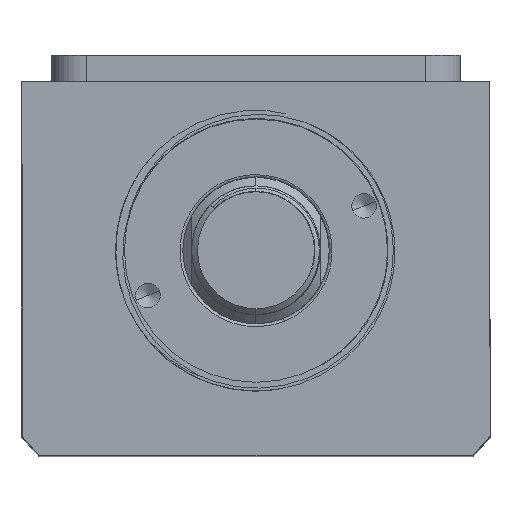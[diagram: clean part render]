
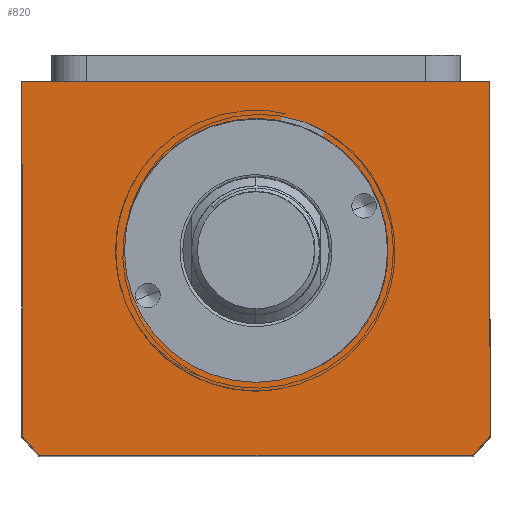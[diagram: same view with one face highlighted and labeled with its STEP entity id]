
A CAD part, top view. The second image highlights one B-rep face of the part: STEP entity #820.
In plain terms, the highlighted planar face has unit normal (0, 0, 1).
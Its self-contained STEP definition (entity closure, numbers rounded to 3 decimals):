
#12 = DIRECTION ( 'NONE',  ( 1., 0., 0. ) ) ;
#111 = CARTESIAN_POINT ( 'NONE',  ( -40., -11.507, 150. ) ) ;
#234 = ORIENTED_EDGE ( 'NONE', *, *, #9653, .T. ) ;
#556 = VERTEX_POINT ( 'NONE', #13759 ) ;
#820 = ADVANCED_FACE ( 'NONE', ( #2173, #1722 ), #9846, .T. ) ;
#1165 = DIRECTION ( 'NONE',  ( 1., 0., 0. ) ) ;
#1722 = FACE_OUTER_BOUND ( 'NONE', #16834, .T. ) ;
#1751 = VERTEX_POINT ( 'NONE', #5623 ) ;
#1778 = CARTESIAN_POINT ( 'NONE',  ( -22.5, -40.507, 150. ) ) ;
#1785 = ORIENTED_EDGE ( 'NONE', *, *, #12431, .T. ) ;
#1990 = DIRECTION ( 'NONE',  ( 0., 0., 1. ) ) ;
#2117 = CIRCLE ( 'NONE', #4791, 22.5 ) ;
#2173 = FACE_BOUND ( 'NONE', #12995, .T. ) ;
#2373 = VERTEX_POINT ( 'NONE', #8440 ) ;
#2476 = EDGE_CURVE ( 'NONE', #10465, #1751, #14210, .T. ) ;
#2499 = LINE ( 'NONE', #14016, #9252 ) ;
#2583 = ORIENTED_EDGE ( 'NONE', *, *, #6225, .T. ) ;
#3766 = CARTESIAN_POINT ( 'NONE',  ( 0., -40.507, 150. ) ) ;
#3883 = CARTESIAN_POINT ( 'NONE',  ( 37.094, -75.507, 150. ) ) ;
#4791 = AXIS2_PLACEMENT_3D ( 'NONE', #16241, #8116, #12 ) ;
#5122 = DIRECTION ( 'NONE',  ( 1., 0., 0. ) ) ;
#5579 = ORIENTED_EDGE ( 'NONE', *, *, #14015, .F. ) ;
#5623 = CARTESIAN_POINT ( 'NONE',  ( -40., -72.145, 150. ) ) ;
#5966 = DIRECTION ( 'NONE',  ( 0., -1., 0. ) ) ;
#6169 = DIRECTION ( 'NONE',  ( 1., 0., 0. ) ) ;
#6225 = EDGE_CURVE ( 'NONE', #556, #10465, #15949, .T. ) ;
#6986 = VECTOR ( 'NONE', #5966, 1000. ) ;
#7435 = CARTESIAN_POINT ( 'NONE',  ( 0., -40.507, 150. ) ) ;
#7472 = CARTESIAN_POINT ( 'NONE',  ( -37.094, -75.507, 150. ) ) ;
#7816 = AXIS2_PLACEMENT_3D ( 'NONE', #7435, #16922, #8801 ) ;
#8116 = DIRECTION ( 'NONE',  ( 0., 0., 1. ) ) ;
#8256 = AXIS2_PLACEMENT_3D ( 'NONE', #3766, #13229, #5122 ) ;
#8280 = CARTESIAN_POINT ( 'NONE',  ( 22.5, -40.507, 150. ) ) ;
#8440 = CARTESIAN_POINT ( 'NONE',  ( 40., -72.145, 150. ) ) ;
#8614 = LINE ( 'NONE', #9571, #14970 ) ;
#8664 = AXIS2_PLACEMENT_3D ( 'NONE', #17402, #9258, #1165 ) ;
#8739 = VECTOR ( 'NONE', #13016, 1000. ) ;
#8801 = DIRECTION ( 'NONE',  ( 1., 0., 0. ) ) ;
#9252 = VECTOR ( 'NONE', #10014, 1000. ) ;
#9258 = DIRECTION ( 'NONE',  ( 0., 0., 1. ) ) ;
#9571 = CARTESIAN_POINT ( 'NONE',  ( -40., -75.507, 150. ) ) ;
#9653 = EDGE_CURVE ( 'NONE', #2373, #556, #2499, .T. ) ;
#9846 = PLANE ( 'NONE',  #13245 ) ;
#9938 = EDGE_CURVE ( 'NONE', #9959, #2373, #17543, .T. ) ;
#9959 = VERTEX_POINT ( 'NONE', #3883 ) ;
#10014 = DIRECTION ( 'NONE',  ( 0., 1., 0. ) ) ;
#10465 = VERTEX_POINT ( 'NONE', #111 ) ;
#10672 = VERTEX_POINT ( 'NONE', #1778 ) ;
#12068 = CARTESIAN_POINT ( 'NONE',  ( 0., 0., 150. ) ) ;
#12431 = EDGE_CURVE ( 'NONE', #1751, #13072, #13657, .T. ) ;
#12577 = DIRECTION ( 'NONE',  ( 1., 0., 0. ) ) ;
#12961 = CARTESIAN_POINT ( 'NONE',  ( -40., -11.507, 150. ) ) ;
#12995 = EDGE_LOOP ( 'NONE', ( #5579, #17265 ) ) ;
#13016 = DIRECTION ( 'NONE',  ( -1., 0., 0. ) ) ;
#13072 = VERTEX_POINT ( 'NONE', #7472 ) ;
#13229 = DIRECTION ( 'NONE',  ( 0., 0., 1. ) ) ;
#13245 = AXIS2_PLACEMENT_3D ( 'NONE', #12068, #1990, #6169 ) ;
#13657 = CIRCLE ( 'NONE', #8256, 51. ) ;
#13759 = CARTESIAN_POINT ( 'NONE',  ( 40., -11.507, 150. ) ) ;
#14015 = EDGE_CURVE ( 'NONE', #16633, #10672, #17378, .T. ) ;
#14016 = CARTESIAN_POINT ( 'NONE',  ( 40., -11.507, 150. ) ) ;
#14077 = CARTESIAN_POINT ( 'NONE',  ( -40., -11.507, 150. ) ) ;
#14210 = LINE ( 'NONE', #14077, #6986 ) ;
#14271 = EDGE_CURVE ( 'NONE', #10672, #16633, #2117, .T. ) ;
#14284 = ORIENTED_EDGE ( 'NONE', *, *, #9938, .T. ) ;
#14898 = ORIENTED_EDGE ( 'NONE', *, *, #2476, .T. ) ;
#14970 = VECTOR ( 'NONE', #12577, 1000. ) ;
#15548 = EDGE_CURVE ( 'NONE', #13072, #9959, #8614, .T. ) ;
#15949 = LINE ( 'NONE', #12961, #8739 ) ;
#16241 = CARTESIAN_POINT ( 'NONE',  ( 0., -40.507, 150. ) ) ;
#16619 = ORIENTED_EDGE ( 'NONE', *, *, #15548, .T. ) ;
#16633 = VERTEX_POINT ( 'NONE', #8280 ) ;
#16834 = EDGE_LOOP ( 'NONE', ( #14898, #1785, #16619, #14284, #234, #2583 ) ) ;
#16922 = DIRECTION ( 'NONE',  ( 0., 0., 1. ) ) ;
#17265 = ORIENTED_EDGE ( 'NONE', *, *, #14271, .F. ) ;
#17378 = CIRCLE ( 'NONE', #7816, 22.5 ) ;
#17402 = CARTESIAN_POINT ( 'NONE',  ( 0., -40.507, 150. ) ) ;
#17543 = CIRCLE ( 'NONE', #8664, 51. ) ;
